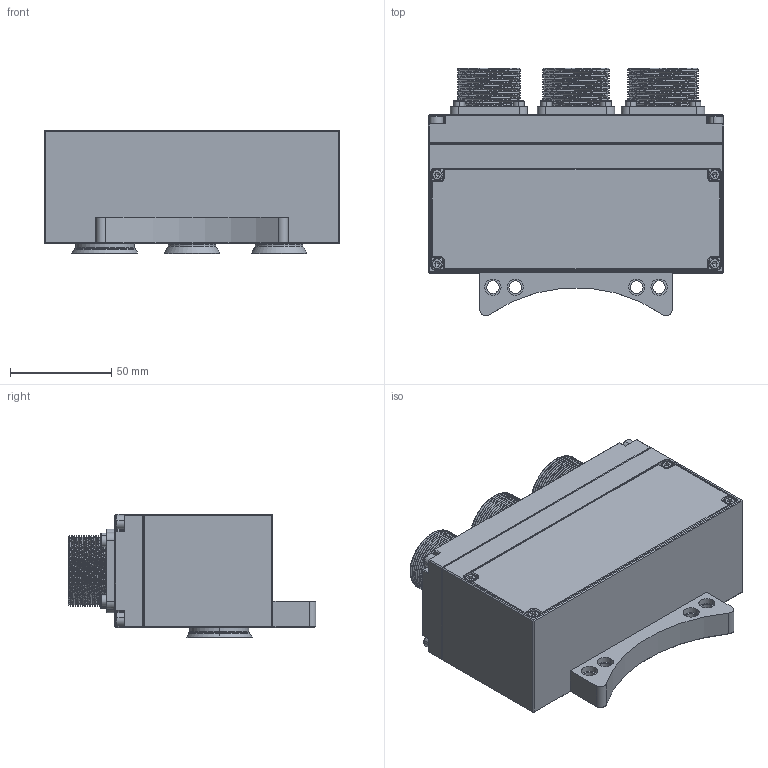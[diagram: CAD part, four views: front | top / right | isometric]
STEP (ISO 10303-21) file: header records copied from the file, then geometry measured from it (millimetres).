
FILE_DESCRIPTION (( 'STEP AP203' ), '1' );
FILE_NAME ('假捶.STEP', '2024-08-28T09:14:04', ( 'Windows 蚚誧' ), ( 'Organization' ), 'SwSTEP 2.0', 'SolidWorks 2018', '' );
FILE_SCHEMA (( 'CONFIG_CONTROL_DESIGN' ));
Length unit declared in the file: millimetre
Products named in the file (1): 假捶
Bounding box: 146 x 122.18 x 61.1 mm (x, y, z)
Volume: 684175 mm3; surface area: 91032.5 mm2
Topology: 1 solids, 1 shells, 3227 faces, 7411 edges, 4330 vertices
Faces by surface type: plane 2068, cylinder 699, cone 298, torus 74, sphere 44, bspline 44
Entity records: 105877 total; most frequent: CARTESIAN_POINT 36849, ORIENTED_EDGE 14574, DIRECTION 13870, EDGE_CURVE 7287, AXIS2_PLACEMENT_3D 4951, VERTEX_POINT 4302, LINE 3968, VECTOR 3968
